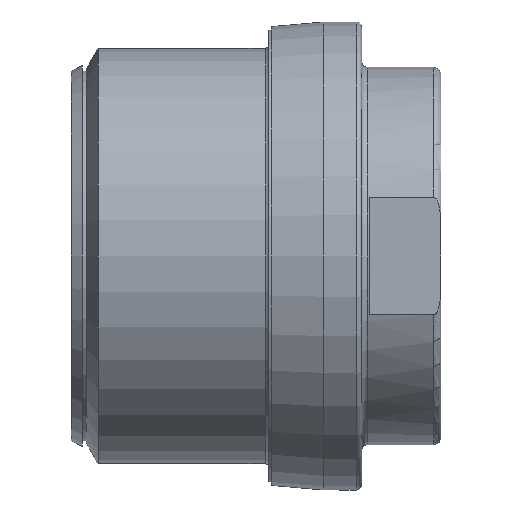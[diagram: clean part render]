
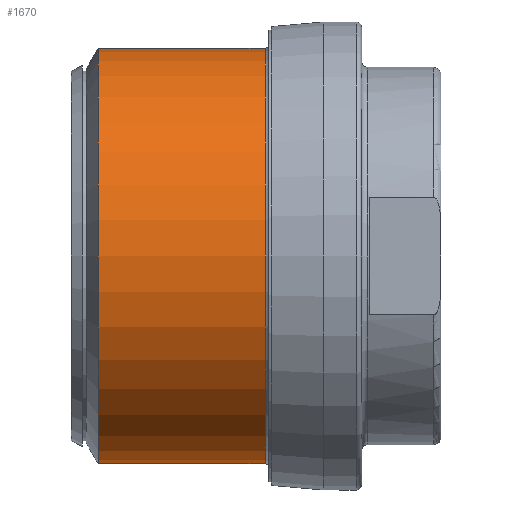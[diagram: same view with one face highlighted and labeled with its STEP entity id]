
A CAD part, front view. The second image highlights one B-rep face of the part: STEP entity #1670.
In plain terms, the highlighted cylindrical face has radius 55 mm (diameter 110 mm), a partial arc.
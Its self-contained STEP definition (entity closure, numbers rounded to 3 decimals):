
#3 = EDGE_CURVE ( 'NONE', #1400, #1399, #662, .T. ) ;
#71 = AXIS2_PLACEMENT_3D ( 'NONE', #399, #396, #402 ) ;
#144 = EDGE_CURVE ( 'NONE', #1397, #1399, #1305, .T. ) ;
#146 = EDGE_CURVE ( 'NONE', #1398, #1397, #561, .T. ) ;
#147 = EDGE_CURVE ( 'NONE', #1398, #1400, #1310, .T. ) ;
#177 = ORIENTED_EDGE ( 'NONE', *, *, #146, .T. ) ;
#179 = ORIENTED_EDGE ( 'NONE', *, *, #3, .F. ) ;
#184 = ORIENTED_EDGE ( 'NONE', *, *, #147, .F. ) ;
#258 = ORIENTED_EDGE ( 'NONE', *, *, #144, .T. ) ;
#302 = CARTESIAN_POINT ( 'NONE',  ( 52.907, 0., 55. ) ) ;
#303 = CARTESIAN_POINT ( 'NONE',  ( 52.907, 0., -55. ) ) ;
#304 = CARTESIAN_POINT ( 'NONE',  ( 8.685, 0., 55. ) ) ;
#305 = CARTESIAN_POINT ( 'NONE',  ( 8.685, 0., -55. ) ) ;
#396 = DIRECTION ( 'NONE',  ( -1., 0., 0. ) ) ;
#397 = FACE_OUTER_BOUND ( 'NONE', #1448, .T. ) ;
#399 = CARTESIAN_POINT ( 'NONE',  ( -5.267, 0., 0. ) ) ;
#401 = CYLINDRICAL_SURFACE ( 'NONE', #71, 55. ) ;
#402 = DIRECTION ( 'NONE',  ( 0., 0., 1. ) ) ;
#549 = AXIS2_PLACEMENT_3D ( 'NONE', #1317, #1318, #1319 ) ;
#561 = CIRCLE ( 'NONE', #549, 55. ) ;
#616 = VECTOR ( 'NONE', #1309, 1000. ) ;
#651 = VECTOR ( 'NONE', #1320, 1000. ) ;
#662 = CIRCLE ( 'NONE', #671, 55. ) ;
#671 = AXIS2_PLACEMENT_3D ( 'NONE', #1496, #1497, #1498 ) ;
#1301 = CARTESIAN_POINT ( 'NONE',  ( -5.267, 0., 55. ) ) ;
#1305 = LINE ( 'NONE', #1301, #616 ) ;
#1309 = DIRECTION ( 'NONE',  ( -1., 0., 0. ) ) ;
#1310 = LINE ( 'NONE', #1311, #651 ) ;
#1311 = CARTESIAN_POINT ( 'NONE',  ( -5.267, 0., -55. ) ) ;
#1317 = CARTESIAN_POINT ( 'NONE',  ( 52.907, 0., 0. ) ) ;
#1318 = DIRECTION ( 'NONE',  ( -1., 0., 0. ) ) ;
#1319 = DIRECTION ( 'NONE',  ( 0., 0., 1. ) ) ;
#1320 = DIRECTION ( 'NONE',  ( -1., 0., 0. ) ) ;
#1397 = VERTEX_POINT ( 'NONE', #302 ) ;
#1398 = VERTEX_POINT ( 'NONE', #303 ) ;
#1399 = VERTEX_POINT ( 'NONE', #304 ) ;
#1400 = VERTEX_POINT ( 'NONE', #305 ) ;
#1448 = EDGE_LOOP ( 'NONE', ( #184, #177, #258, #179 ) ) ;
#1496 = CARTESIAN_POINT ( 'NONE',  ( 8.685, 0., 0. ) ) ;
#1497 = DIRECTION ( 'NONE',  ( -1., 0., 0. ) ) ;
#1498 = DIRECTION ( 'NONE',  ( 0., 0., -1. ) ) ;
#1670 = ADVANCED_FACE ( 'NONE', ( #397 ), #401, .T. ) ;
